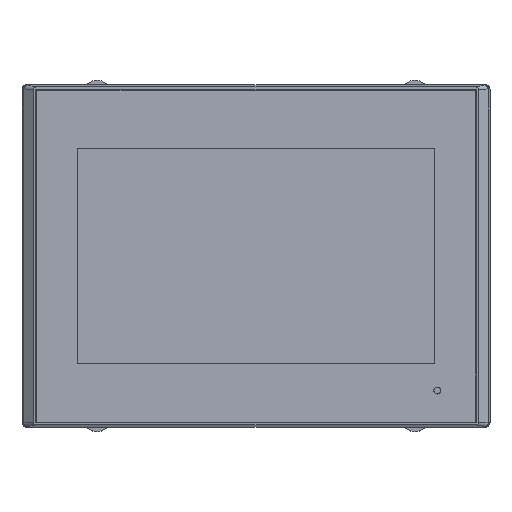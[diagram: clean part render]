
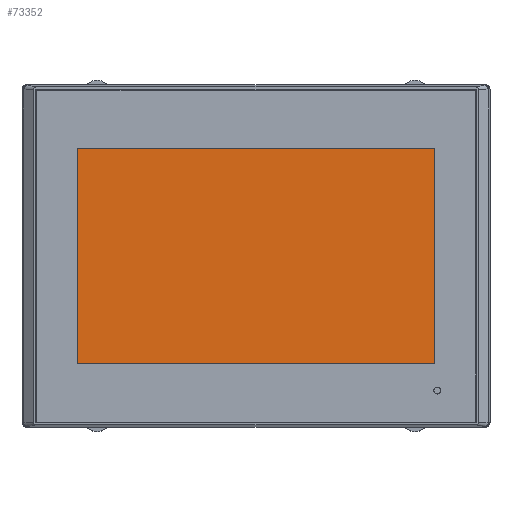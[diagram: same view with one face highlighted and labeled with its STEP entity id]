
A CAD part, top view. The second image highlights one B-rep face of the part: STEP entity #73352.
In plain terms, the highlighted planar face has unit normal (0, 0, 1).
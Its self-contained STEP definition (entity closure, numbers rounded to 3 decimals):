
#29169=DIRECTION('',(0.,-1.,0.));
#29170=VECTOR('',#29169,92.9);
#29171=CARTESIAN_POINT('',(-76.95,46.45,5.712));
#29172=LINE('',#29171,#29170);
#29173=DIRECTION('',(-1.,0.,0.));
#29174=VECTOR('',#29173,153.9);
#29175=CARTESIAN_POINT('',(76.95,46.45,5.712));
#29176=LINE('',#29175,#29174);
#29177=DIRECTION('',(0.,1.,0.));
#29178=VECTOR('',#29177,92.9);
#29179=CARTESIAN_POINT('',(76.95,-46.45,5.712));
#29180=LINE('',#29179,#29178);
#29181=DIRECTION('',(1.,0.,0.));
#29182=VECTOR('',#29181,153.9);
#29183=CARTESIAN_POINT('',(-76.95,-46.45,5.712));
#29184=LINE('',#29183,#29182);
#35106=CARTESIAN_POINT('',(-76.95,46.45,5.712));
#35107=CARTESIAN_POINT('',(-76.95,-46.45,5.712));
#35108=VERTEX_POINT('',#35106);
#35109=VERTEX_POINT('',#35107);
#35110=CARTESIAN_POINT('',(76.95,-46.45,5.712));
#35111=VERTEX_POINT('',#35110);
#35112=CARTESIAN_POINT('',(76.95,46.45,5.712));
#35113=VERTEX_POINT('',#35112);
#73341=CARTESIAN_POINT('',(0.,0.,5.712));
#73342=DIRECTION('',(0.,0.,1.));
#73343=DIRECTION('',(1.,0.,0.));
#73344=AXIS2_PLACEMENT_3D('',#73341,#73342,#73343);
#73345=PLANE('',#73344);
#73346=ORIENTED_EDGE('',*,*,#73293,.F.);
#73347=ORIENTED_EDGE('',*,*,#73308,.F.);
#73348=ORIENTED_EDGE('',*,*,#73322,.F.);
#73349=ORIENTED_EDGE('',*,*,#73335,.F.);
#73350=EDGE_LOOP('',(#73346,#73347,#73348,#73349));
#73351=FACE_OUTER_BOUND('',#73350,.F.);
#73352=ADVANCED_FACE('',(#73351),#73345,.T.);
#73293=EDGE_CURVE('',#35108,#35109,#29172,.T.);
#73308=EDGE_CURVE('',#35113,#35108,#29176,.T.);
#73322=EDGE_CURVE('',#35111,#35113,#29180,.T.);
#73335=EDGE_CURVE('',#35109,#35111,#29184,.T.);
